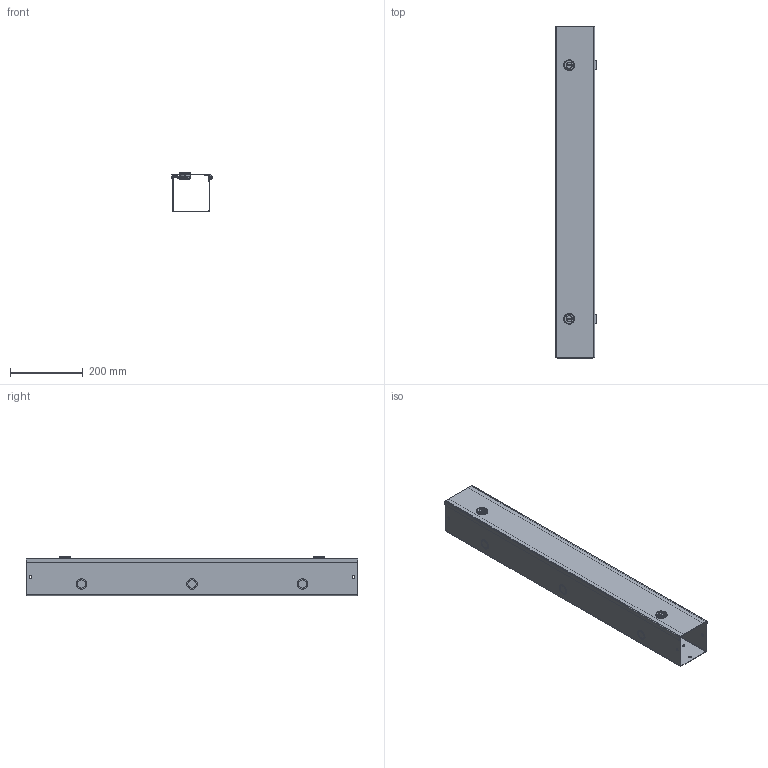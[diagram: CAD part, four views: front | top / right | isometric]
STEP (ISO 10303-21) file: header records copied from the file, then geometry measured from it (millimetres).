
FILE_DESCRIPTION(/* description */ ('1100SS 36" x 4" x 4" Assembly'),/* implementation_level */ '2;1');
FILE_NAME(/* name */ '1100SS4036.stp',/* time_stamp */ '2024-09-20T00:39:36-04:00',/* author */ ('BoxCad'),/* organization */ (''),/* preprocessor_version */ 'ST-DEVELOPER v20',/* originating_system */ 'Autodesk Inventor 2024',/* authorisation */ '');
FILE_SCHEMA (('AUTOMOTIVE_DESIGN { 1 0 10303 214 3 1 1 }'));
Products named in the file (11): 1100SS4036; 1100SS4036B; 1100SS4036B-P; 1100SS4036C; 1100SS4036C-P; STK-P-02400S; STK-Q-33361; STK-A-880SCQ1-SL-1; STK-A-880SCQ1-SL-2; STK-Q-78631; STK-Q-78644
Assembly tree (14 placements, depth 4):
  1100SS4036
    1100SS4036B
      1100SS4036B-P
      STK-P-02400S
    1100SS4036C
      1100SS4036C-P
      STK-P-02400S
      STK-Q-33361  x2
      STK-A-880SCQ1-SL-1
        STK-Q-78631
        STK-Q-78644
      STK-A-880SCQ1-SL-2
        STK-Q-78631
        STK-Q-78644
Bounding box: 111.9 x 914.4 x 107.6 mm (x, y, z)
Volume: 591485.8 mm3; surface area: 849877 mm2
Topology: 8 solids, 8 shells, 3402 faces, 8692 edges, 5250 vertices
Faces by surface type: plane 1294, cylinder 912, bspline 826, torus 212, sphere 158
Full cylindrical faces by diameter (mm): 0.762 x2, 7.137 x10, 30 x2
Entity records: 61221 total; most frequent: CARTESIAN_POINT 18463, ORIENTED_EDGE 9262, DIRECTION 8072, EDGE_CURVE 4631, VERTEX_POINT 2861, AXIS2_PLACEMENT_3D 2746, LINE 2580, VECTOR 2580
